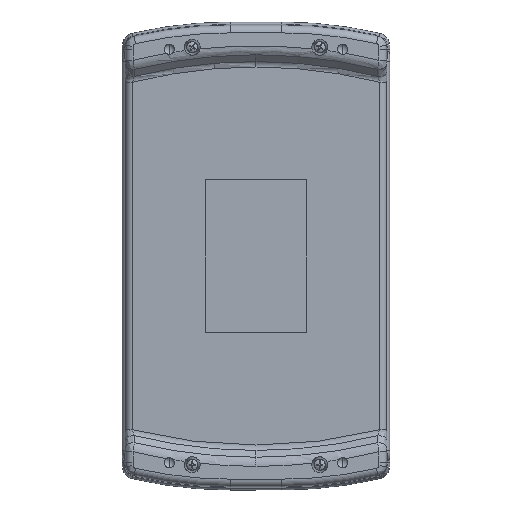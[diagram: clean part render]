
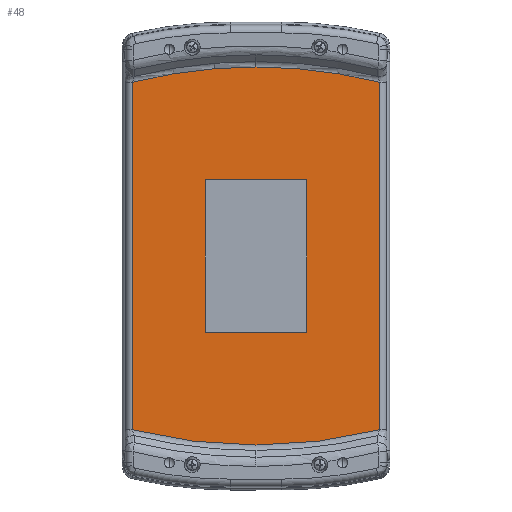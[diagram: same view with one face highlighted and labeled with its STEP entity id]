
A CAD part, front view. The second image highlights one B-rep face of the part: STEP entity #48.
In plain terms, the highlighted planar face has unit normal (0, -1, 0).
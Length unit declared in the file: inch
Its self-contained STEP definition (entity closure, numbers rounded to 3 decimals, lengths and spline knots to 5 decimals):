
#48 = ADVANCED_FACE ( 'NONE', ( #24090, #32013 ), #17601, .F. ) ;
#1056 = ORIENTED_EDGE ( 'NONE', *, *, #26060, .T. ) ;
#1183 = VERTEX_POINT ( 'NONE', #14652 ) ;
#1542 = DIRECTION ( 'NONE',  ( 0., 0., 1. ) ) ;
#1706 = CIRCLE ( 'NONE', #7469, 9.93787 ) ;
#2010 = CARTESIAN_POINT ( 'NONE',  ( 0., -0.55, -6.23 ) ) ;
#2594 = CARTESIAN_POINT ( 'NONE',  ( -1., -0.55, 1.5 ) ) ;
#2711 = VERTEX_POINT ( 'NONE', #35742 ) ;
#3289 = CARTESIAN_POINT ( 'NONE',  ( 0., -0.55, 3.70787 ) ) ;
#3563 = LINE ( 'NONE', #4613, #11596 ) ;
#4388 = DIRECTION ( 'NONE',  ( -1., 0., 0. ) ) ;
#4613 = CARTESIAN_POINT ( 'NONE',  ( 1., -0.55, -1.5 ) ) ;
#4744 = LINE ( 'NONE', #19317, #19744 ) ;
#4901 = CIRCLE ( 'NONE', #37902, 9.93787 ) ;
#4980 = DIRECTION ( 'NONE',  ( 0., 0., 1. ) ) ;
#5321 = CARTESIAN_POINT ( 'NONE',  ( -1., -0.55, 1.5 ) ) ;
#5342 = VECTOR ( 'NONE', #27638, 39.37008 ) ;
#5666 = CARTESIAN_POINT ( 'NONE',  ( -1.935, -0.55, 4.05 ) ) ;
#6286 = CARTESIAN_POINT ( 'NONE',  ( 2.42094, -0.55, -3.40848 ) ) ;
#6824 = DIRECTION ( 'NONE',  ( 0., 0., 1. ) ) ;
#7012 = EDGE_CURVE ( 'NONE', #1183, #38209, #28200, .T. ) ;
#7469 = AXIS2_PLACEMENT_3D ( 'NONE', #31676, #13905, #34639 ) ;
#7850 = EDGE_CURVE ( 'NONE', #9584, #1183, #3563, .T. ) ;
#7944 = ORIENTED_EDGE ( 'NONE', *, *, #25267, .F. ) ;
#8708 = DIRECTION ( 'NONE',  ( 0., 0., 1. ) ) ;
#9100 = ORIENTED_EDGE ( 'NONE', *, *, #12816, .F. ) ;
#9379 = AXIS2_PLACEMENT_3D ( 'NONE', #5666, #26532, #8708 ) ;
#9584 = VERTEX_POINT ( 'NONE', #12705 ) ;
#10672 = VERTEX_POINT ( 'NONE', #6286 ) ;
#11365 = CARTESIAN_POINT ( 'NONE',  ( -2.42094, -0.55, 3.40848 ) ) ;
#11596 = VECTOR ( 'NONE', #34175, 39.37008 ) ;
#12705 = CARTESIAN_POINT ( 'NONE',  ( -1., -0.55, -1.5 ) ) ;
#12816 = EDGE_CURVE ( 'NONE', #38209, #32219, #4744, .T. ) ;
#13188 = AXIS2_PLACEMENT_3D ( 'NONE', #2010, #22890, #4980 ) ;
#13323 = CARTESIAN_POINT ( 'NONE',  ( 2.42094, -0.55, 3.37093 ) ) ;
#13338 = LINE ( 'NONE', #30614, #5342 ) ;
#13905 = DIRECTION ( 'NONE',  ( 0., -1., 0. ) ) ;
#14652 = CARTESIAN_POINT ( 'NONE',  ( 1., -0.55, -1.5 ) ) ;
#14664 = VERTEX_POINT ( 'NONE', #22367 ) ;
#15455 = ORIENTED_EDGE ( 'NONE', *, *, #20035, .T. ) ;
#15902 = CARTESIAN_POINT ( 'NONE',  ( 1., -0.55, 1.5 ) ) ;
#16254 = LINE ( 'NONE', #2594, #25074 ) ;
#17308 = VERTEX_POINT ( 'NONE', #11365 ) ;
#17601 = PLANE ( 'NONE',  #9379 ) ;
#19317 = CARTESIAN_POINT ( 'NONE',  ( 1., -0.55, 1.5 ) ) ;
#19429 = DIRECTION ( 'NONE',  ( 0., -1., 0. ) ) ;
#19744 = VECTOR ( 'NONE', #4388, 39.37008 ) ;
#20009 = ORIENTED_EDGE ( 'NONE', *, *, #37132, .T. ) ;
#20035 = EDGE_CURVE ( 'NONE', #10672, #14664, #29460, .T. ) ;
#20475 = DIRECTION ( 'NONE',  ( 0., 0., -1. ) ) ;
#20507 = CIRCLE ( 'NONE', #13188, 9.93787 ) ;
#21247 = VECTOR ( 'NONE', #6824, 39.37008 ) ;
#21564 = ORIENTED_EDGE ( 'NONE', *, *, #26829, .T. ) ;
#22367 = CARTESIAN_POINT ( 'NONE',  ( 2.42094, -0.55, 3.40848 ) ) ;
#22597 = EDGE_CURVE ( 'NONE', #14664, #34543, #20507, .T. ) ;
#22890 = DIRECTION ( 'NONE',  ( 0., -1., 0. ) ) ;
#24090 = FACE_BOUND ( 'NONE', #25717, .T. ) ;
#25074 = VECTOR ( 'NONE', #20475, 39.37008 ) ;
#25266 = DIRECTION ( 'NONE',  ( 0., 0., 1. ) ) ;
#25267 = EDGE_CURVE ( 'NONE', #32219, #9584, #16254, .T. ) ;
#25717 = EDGE_LOOP ( 'NONE', ( #9100, #34123, #27274, #7944 ) ) ;
#26060 = EDGE_CURVE ( 'NONE', #34543, #17308, #1706, .T. ) ;
#26532 = DIRECTION ( 'NONE',  ( 0., 1., 0. ) ) ;
#26829 = EDGE_CURVE ( 'NONE', #2711, #10672, #4901, .T. ) ;
#27274 = ORIENTED_EDGE ( 'NONE', *, *, #7850, .F. ) ;
#27638 = DIRECTION ( 'NONE',  ( 0., 0., -1. ) ) ;
#28200 = LINE ( 'NONE', #15902, #21247 ) ;
#28405 = ORIENTED_EDGE ( 'NONE', *, *, #22597, .T. ) ;
#29460 = LINE ( 'NONE', #13323, #31324 ) ;
#30156 = EDGE_LOOP ( 'NONE', ( #28405, #1056, #20009, #21564, #15455 ) ) ;
#30614 = CARTESIAN_POINT ( 'NONE',  ( -2.42094, -0.55, -3.37093 ) ) ;
#30660 = CARTESIAN_POINT ( 'NONE',  ( 1., -0.55, 1.5 ) ) ;
#31324 = VECTOR ( 'NONE', #25266, 39.37008 ) ;
#31676 = CARTESIAN_POINT ( 'NONE',  ( 0., -0.55, -6.23 ) ) ;
#32013 = FACE_OUTER_BOUND ( 'NONE', #30156, .T. ) ;
#32219 = VERTEX_POINT ( 'NONE', #5321 ) ;
#34123 = ORIENTED_EDGE ( 'NONE', *, *, #7012, .F. ) ;
#34175 = DIRECTION ( 'NONE',  ( 1., 0., 0. ) ) ;
#34543 = VERTEX_POINT ( 'NONE', #3289 ) ;
#34639 = DIRECTION ( 'NONE',  ( 0., 0., 1. ) ) ;
#35742 = CARTESIAN_POINT ( 'NONE',  ( -2.42094, -0.55, -3.40848 ) ) ;
#37132 = EDGE_CURVE ( 'NONE', #17308, #2711, #13338, .T. ) ;
#37176 = CARTESIAN_POINT ( 'NONE',  ( 0., -0.55, 6.23 ) ) ;
#37902 = AXIS2_PLACEMENT_3D ( 'NONE', #37176, #19429, #1542 ) ;
#38209 = VERTEX_POINT ( 'NONE', #30660 ) ;
